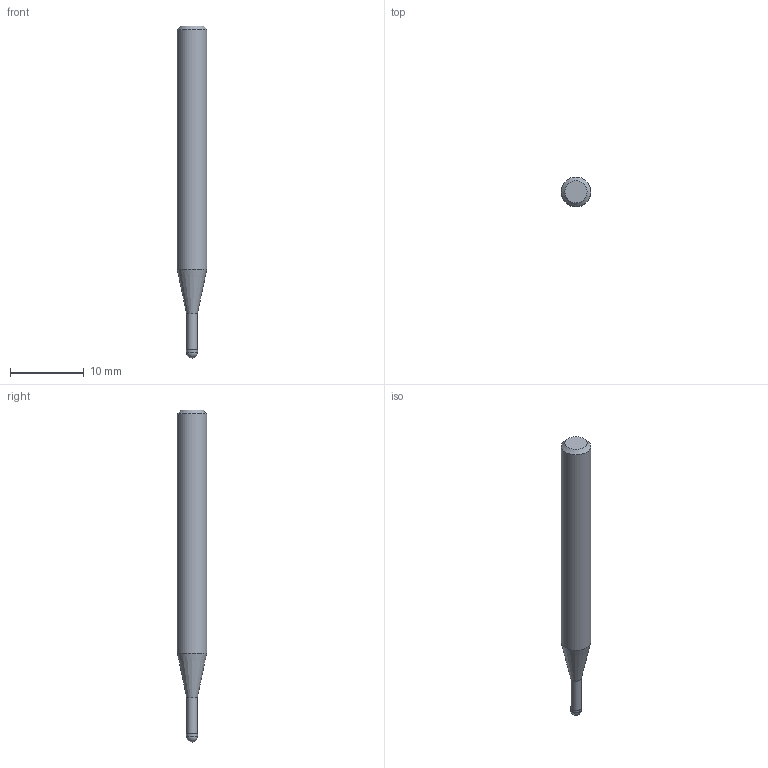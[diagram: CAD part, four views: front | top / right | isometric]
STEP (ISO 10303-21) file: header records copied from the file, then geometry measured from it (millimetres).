
FILE_DESCRIPTION((''),'2;1');
FILE_NAME('C:\Users\nsx150\AppData\Local\Temp\Mastercam 2021\ARV7HD45SN\TEMP.step','2023-06-13T16:36:24',(''),(''),'STEP Write','Mastercam 2021 ... CNC Software, Inc.','');
FILE_SCHEMA(('AUTOMOTIVE_DESIGN'));
Length unit declared in the file: millimetre
Products named in the file (1): None
Bounding box: 4 x 4 x 45 mm (x, y, z)
Volume: 460.4 mm3; surface area: 506.7 mm2
Topology: 2 solids, 2 shells, 9 faces, 14 edges, 8 vertices
Faces by surface type: plane 3, cylinder 3, cone 2, sphere 1
Full cylindrical faces by diameter (mm): 1.45 x1, 1.5 x1, 4 x1
Entity records: 211 total; most frequent: DIRECTION 36, CARTESIAN_POINT 25, AXIS2_PLACEMENT_3D 18, ORIENTED_EDGE 14, EDGE_LOOP 14, STYLED_ITEM 12, ADVANCED_FACE 9, FACE_BOUND 8
